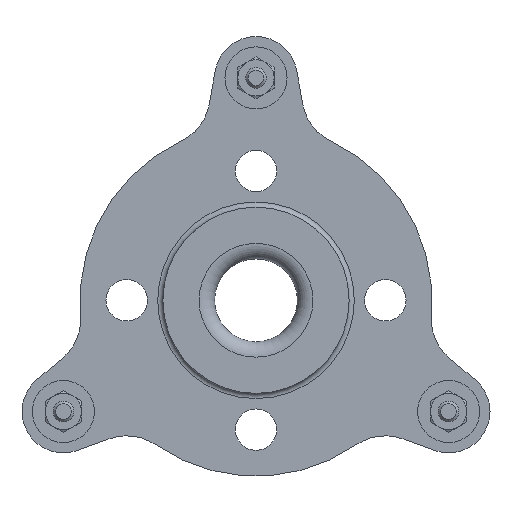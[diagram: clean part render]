
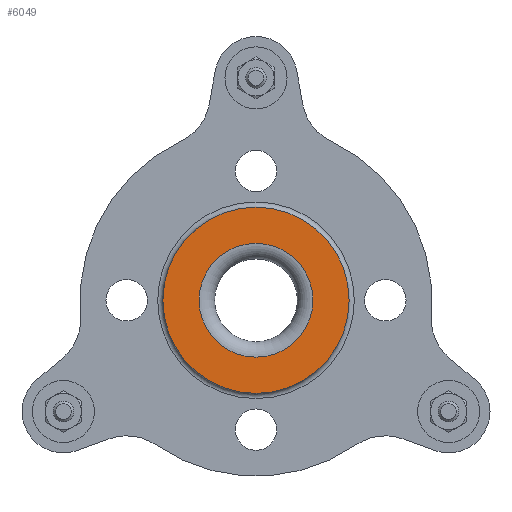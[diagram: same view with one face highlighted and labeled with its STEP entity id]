
A CAD part, left-side view. The second image highlights one B-rep face of the part: STEP entity #6049.
In plain terms, the highlighted planar face has unit normal (-1, 0, 0).
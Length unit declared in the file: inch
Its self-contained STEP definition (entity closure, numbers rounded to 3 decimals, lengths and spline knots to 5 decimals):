
#692=PLANE('',#6764);
#1299=FACE_BOUND('',#2255,.T.);
#1659=FACE_OUTER_BOUND('',#2254,.T.);
#2254=EDGE_LOOP('',(#5155));
#2255=EDGE_LOOP('',(#5156));
#2677=CIRCLE('',#6763,1.125);
#2678=CIRCLE('',#6765,0.6875);
#3138=VERTEX_POINT('',#10294);
#3139=VERTEX_POINT('',#10297);
#3828=EDGE_CURVE('',#3138,#3138,#2677,.T.);
#3829=EDGE_CURVE('',#3139,#3139,#2678,.T.);
#5155=ORIENTED_EDGE('',*,*,#3828,.T.);
#5156=ORIENTED_EDGE('',*,*,#3829,.F.);
#6049=ADVANCED_FACE('',(#1659,#1299),#692,.T.);
#6763=AXIS2_PLACEMENT_3D('',#10295,#8232,#8233);
#6764=AXIS2_PLACEMENT_3D('',#10296,#8234,#8235);
#6765=AXIS2_PLACEMENT_3D('',#10298,#8236,#8237);
#8232=DIRECTION('center_axis',(-1.,0.,0.));
#8233=DIRECTION('ref_axis',(0.,-1.,0.));
#8234=DIRECTION('center_axis',(-1.,0.,0.));
#8235=DIRECTION('ref_axis',(0.,-1.,0.));
#8236=DIRECTION('center_axis',(-1.,0.,0.));
#8237=DIRECTION('ref_axis',(0.,-1.,0.));
#10294=CARTESIAN_POINT('',(-1.1875,0.,1.125));
#10295=CARTESIAN_POINT('Origin',(-1.1875,0.,0.));
#10296=CARTESIAN_POINT('Origin',(-1.1875,0.,0.6875));
#10297=CARTESIAN_POINT('',(-1.1875,0.,0.6875));
#10298=CARTESIAN_POINT('Origin',(-1.1875,0.,0.));
